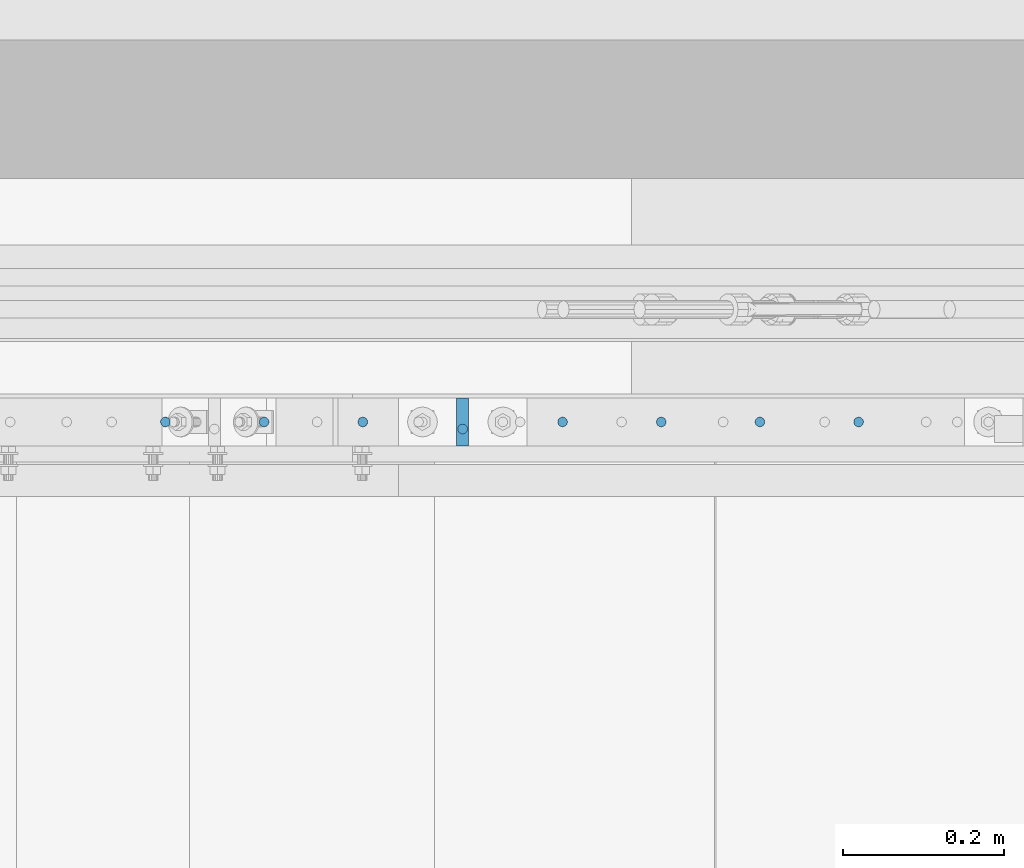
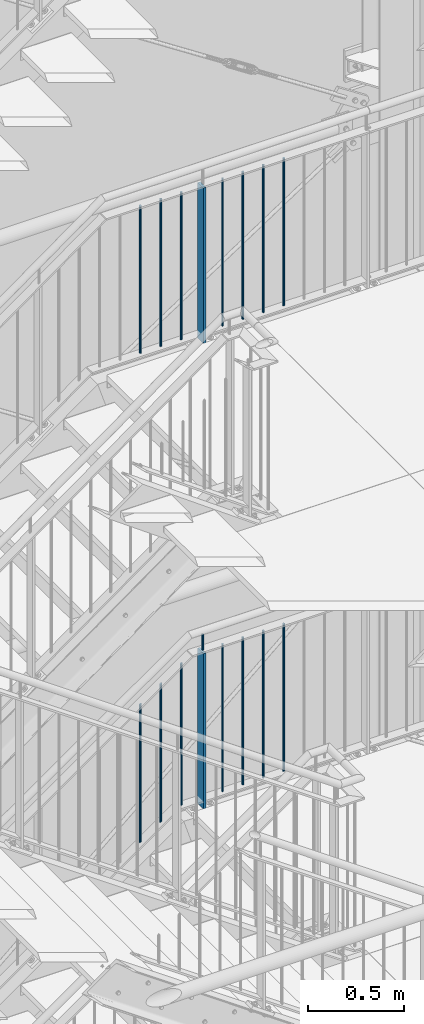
# One storey, part 105 of 825: 17 columns.
"""IFC2X3 building model written with IfcOpenShell, lengths in millimetres."""

from ifc_helpers import new_model, entity, si_unit, converted_unit, frame, origin, origin_with_axes, origin_2d, place, context, project, spatial, rectangle, circle, extrude, clip, halfspace, material, element, save


model = new_model("IFC2X3")

# Units and contexts
model_context = context("Model", 3, precision=1e-09, world=origin_with_axes())
ifc_project = project(units=[si_unit("LENGTHUNIT", "METRE", prefix="MILLI"), si_unit("AREAUNIT", "SQUARE_METRE"), si_unit("VOLUMEUNIT", "CUBIC_METRE"), converted_unit("PLANEANGLEUNIT", "DEGREE", entity("IfcPlaneAngleMeasure", 0.01745329), si_unit("PLANEANGLEUNIT", "RADIAN"), dimensions=[0, 0, 0, 0, 0, 0, 0])], contexts=[model_context])

# Site, building, storey
site_placement = place(None, origin_with_axes())
site = spatial("IfcSite", under=ifc_project, at=site_placement, Name="Cnopf'sche Kinderklinik", CompositionType="ELEMENT")
building_placement = place(site_placement, origin_with_axes())
building = spatial("IfcBuilding", under=site, at=building_placement, Name="Struktur 1", CompositionType="ELEMENT")
storey_placement = place(building_placement, origin_with_axes())
storey = spatial("IfcBuildingStorey", under=building, at=storey_placement, Name="Default Storey", CompositionType="ELEMENT", Elevation=0.0)

# Columns
ifc_material = material(Name="S235JR")
column_1_placement = place(None, frame((7656.713831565, 7356.736971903, 6714.618028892), z_axis=(0.0, 0.0, 1.0), x_axis=(1.0, 0.0, 0.0)))
element("IfcColumn", 1, at=column_1_placement, inside=storey, material=ifc_material, Name="Railing_Post_Landing#3", ObjectType="Railing_Post_Landing#3", context=model_context, shape_type="Clipping", body=[
    clip(clip(extrude(rectangle(XDim=15.0, YDim=60.0, at=origin_2d()), origin(), (0.0, 0.0, -1.0), 1070.646584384), halfspace(frame((-7656.713831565, -7356.736971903, -1019.722292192), z_axis=(0.0, 0.0, 1.0), x_axis=(1.0, 0.0, 0.0)), True)), halfspace(frame((-7656.713831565, -7356.736971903, -30.924292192), z_axis=(0.0, 0.0, -1.0), x_axis=(-1.0, 0.0, 0.0)), True)),
])
column_2_placement = place(None, frame((7286.963783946, 7356.736971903, 6483.423738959), z_axis=(0.0, 0.0, 1.0), x_axis=(1.0, 0.0, 0.0)))
element("IfcColumn", 2, at=column_2_placement, inside=storey, material=ifc_material, Name="Railing_Picket_Stair#18", ObjectType="Railing_Picket_Stair#18", context=model_context, shape_type="Clipping", body=[
    clip(clip(extrude(circle(Radius=6.0, at=origin_2d()), origin(), (0.0, 0.0, -1.0), 897.037988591), halfspace(frame((-7509.862950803, -7356.736971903, -6166.371655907), z_axis=(-0.575128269, 0.0, 0.818063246), x_axis=(0.0, -1.0, 0.0)), True)), halfspace(frame((-7922.150118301, -7356.736971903, -5579.933818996), z_axis=(0.575128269, 0.0, -0.818063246), x_axis=(0.0, 1.0, 0.0)), True)),
])
column_3_placement = place(None, frame((7409.713807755, 7356.736971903, 6569.721478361), z_axis=(0.0, 0.0, 1.0), x_axis=(1.0, 0.0, 0.0)))
element("IfcColumn", 3, at=column_3_placement, inside=storey, material=ifc_material, Name="Railing_Picket_Stair#19", ObjectType="Railing_Picket_Stair#19", context=model_context, shape_type="Clipping", body=[
    clip(clip(extrude(circle(Radius=6.0, at=origin_2d()), origin(), (0.0, 0.0, -1.0), 897.037988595), halfspace(frame((-7632.612974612, -7356.736971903, -6252.66939531), z_axis=(-0.575128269, 0.0, 0.818063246), x_axis=(0.0, -1.0, 0.0)), True)), halfspace(frame((-8044.900142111, -7356.736971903, -5666.231558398), z_axis=(0.575128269, 0.0, -0.818063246), x_axis=(0.0, 1.0, 0.0)), True)),
])
column_4_placement = place(None, frame((7532.463831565, 7356.736971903, 6656.019217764), z_axis=(0.0, 0.0, 1.0), x_axis=(1.0, 0.0, 0.0)))
element("IfcColumn", 4, at=column_4_placement, inside=storey, material=ifc_material, Name="Railing_Picket_Landing#20", ObjectType="Railing_Picket_Landing#20", context=model_context, shape_type="Clipping", body=[
    clip(extrude(circle(Radius=6.0, at=origin_2d()), origin(), (0.0, 0.0, -1.0), 911.124481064), halfspace(frame((-8167.65016592, -7356.736971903, -5752.529297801), z_axis=(0.575128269, 0.0, -0.818063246), x_axis=(0.0, 1.0, 0.0)), True)),
])
column_5_placement = place(None, frame((7780.963831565, 7356.736971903, 6697.180018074), z_axis=(0.0, 0.0, 1.0), x_axis=(1.0, 0.0, 0.0)))
element("IfcColumn", 5, at=column_5_placement, inside=storey, material=ifc_material, Name="Railing_Picket_Landing#21", ObjectType="Railing_Picket_Landing#21", context=model_context, shape_type="Clipping", body=[
    clip(clip(extrude(circle(Radius=6.0, at=origin_2d()), origin(), (0.0, 0.0, -1.0), 965.770562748), halfspace(frame((-7780.963831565, -7356.736971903, -13.486281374), z_axis=(0.0, 0.0, -1.0), x_axis=(-1.0, 0.0, 0.0)), True)), halfspace(frame((-7780.963831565, -7356.736971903, -952.284281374), z_axis=(0.0, 0.0, 1.0), x_axis=(1.0, 0.0, 0.0)), True)),
])
column_6_placement = place(None, frame((7903.713855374, 7356.736971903, 6697.180018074), z_axis=(0.0, 0.0, 1.0), x_axis=(1.0, 0.0, 0.0)))
element("IfcColumn", 6, at=column_6_placement, inside=storey, material=ifc_material, Name="Railing_Picket_Landing#22", ObjectType="Railing_Picket_Landing#22", context=model_context, shape_type="Clipping", body=[
    clip(clip(extrude(circle(Radius=6.0, at=origin_2d()), origin(), (0.0, 0.0, -1.0), 965.770562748), halfspace(frame((-7903.713855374, -7356.736971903, -13.486281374), z_axis=(0.0, 0.0, -1.0), x_axis=(-1.0, 0.0, 0.0)), True)), halfspace(frame((-7903.713855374, -7356.736971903, -952.284281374), z_axis=(0.0, 0.0, 1.0), x_axis=(1.0, 0.0, 0.0)), True)),
])
column_7_placement = place(None, frame((8026.463879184, 7356.736971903, 6697.180018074), z_axis=(0.0, 0.0, 1.0), x_axis=(1.0, 0.0, 0.0)))
element("IfcColumn", 7, at=column_7_placement, inside=storey, material=ifc_material, Name="Railing_Picket_Landing#23", ObjectType="Railing_Picket_Landing#23", context=model_context, shape_type="Clipping", body=[
    clip(clip(extrude(circle(Radius=6.0, at=origin_2d()), origin(), (0.0, 0.0, -1.0), 965.770562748), halfspace(frame((-8026.463879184, -7356.736971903, -13.486281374), z_axis=(0.0, 0.0, -1.0), x_axis=(-1.0, 0.0, 0.0)), True)), halfspace(frame((-8026.463879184, -7356.736971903, -952.284281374), z_axis=(0.0, 0.0, 1.0), x_axis=(1.0, 0.0, 0.0)), True)),
])
column_8_placement = place(None, frame((8149.213902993, 7356.736971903, 6697.180018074), z_axis=(0.0, 0.0, 1.0), x_axis=(1.0, 0.0, 0.0)))
element("IfcColumn", 8, at=column_8_placement, inside=storey, material=ifc_material, Name="Railing_Picket_Landing#24", ObjectType="Railing_Picket_Landing#24", context=model_context, shape_type="Clipping", body=[
    clip(clip(extrude(circle(Radius=6.0, at=origin_2d()), origin(), (0.0, 0.0, -1.0), 965.770562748), halfspace(frame((-8149.213902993, -7356.736971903, -13.486281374), z_axis=(0.0, 0.0, -1.0), x_axis=(-1.0, 0.0, 0.0)), True)), halfspace(frame((-8149.213902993, -7356.736971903, -952.284281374), z_axis=(0.0, 0.0, 1.0), x_axis=(1.0, 0.0, 0.0)), True)),
])
column_9_placement = place(None, frame((7656.713831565, 7347.936971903, 6802.180018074), z_axis=(0.0, 0.0, 1.0), x_axis=(0.0, -1.0, 0.0)))
element("IfcColumn", 9, at=column_9_placement, inside=storey, material=ifc_material, Name="Bar#3", ObjectType="Bar#3", context=model_context, shape_type="Clipping", body=[
    clip(clip(extrude(circle(Radius=6.0, at=origin_2d()), origin(), (0.0, 0.0, -1.0), 116.970562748), halfspace(frame((7347.936971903, -7656.713831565, -8.486281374), z_axis=(0.0, 0.0, -1.0), x_axis=(0.0, -1.0, 0.0)), True)), halfspace(frame((7347.936971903, -7656.713831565, -108.484281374), z_axis=(0.0, 0.0, 1.0), x_axis=(0.0, 1.0, 0.0)), True)),
])
column_10_placement = place(None, frame((7656.713831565, 7356.736971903, 9675.723292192), z_axis=(0.0, 0.0, 1.0), x_axis=(1.0, 0.0, 0.0)))
element("IfcColumn", 10, at=column_10_placement, inside=storey, material=ifc_material, Name="Railing_Post_Landing#3", ObjectType="Railing_Post_Landing#3", context=model_context, shape_type="Clipping", body=[
    clip(clip(extrude(rectangle(XDim=15.0, YDim=60.0, at=origin_2d()), origin(), (0.0, 0.0, -1.0), 1070.646584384), halfspace(frame((-7656.713831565, -7356.736971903, -1019.722292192), z_axis=(0.0, 0.0, 1.0), x_axis=(1.0, 0.0, 0.0)), True)), halfspace(frame((-7656.713831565, -7356.736971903, -30.924292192), z_axis=(0.0, 0.0, -1.0), x_axis=(-1.0, 0.0, 0.0)), True)),
])
column_11_placement = place(None, frame((7286.963783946, 7356.736971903, 9658.285281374), z_axis=(0.0, 0.0, 1.0), x_axis=(1.0, 0.0, 0.0)))
element("IfcColumn", 11, at=column_11_placement, inside=storey, material=ifc_material, Name="Railing_Picket_Landing#18", ObjectType="Railing_Picket_Landing#18", context=model_context, shape_type="Clipping", body=[
    clip(clip(extrude(circle(Radius=6.0, at=origin_2d()), origin(), (0.0, 0.0, -1.0), 965.770562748), halfspace(frame((-7286.963783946, -7356.736971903, -13.486281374), z_axis=(0.0, 0.0, -1.0), x_axis=(-1.0, 0.0, 0.0)), True)), halfspace(frame((-7286.963783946, -7356.736971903, -952.284281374), z_axis=(0.0, 0.0, 1.0), x_axis=(1.0, 0.0, 0.0)), True)),
])
column_12_placement = place(None, frame((7409.713807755, 7356.736971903, 9658.285281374), z_axis=(0.0, 0.0, 1.0), x_axis=(1.0, 0.0, 0.0)))
element("IfcColumn", 12, at=column_12_placement, inside=storey, material=ifc_material, Name="Railing_Picket_Landing#19", ObjectType="Railing_Picket_Landing#19", context=model_context, shape_type="Clipping", body=[
    clip(clip(extrude(circle(Radius=6.0, at=origin_2d()), origin(), (0.0, 0.0, -1.0), 965.770562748), halfspace(frame((-7409.713807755, -7356.736971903, -13.486281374), z_axis=(0.0, 0.0, -1.0), x_axis=(-1.0, 0.0, 0.0)), True)), halfspace(frame((-7409.713807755, -7356.736971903, -952.284281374), z_axis=(0.0, 0.0, 1.0), x_axis=(1.0, 0.0, 0.0)), True)),
])
column_13_placement = place(None, frame((7532.463831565, 7356.736971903, 9658.285281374), z_axis=(0.0, 0.0, 1.0), x_axis=(1.0, 0.0, 0.0)))
element("IfcColumn", 13, at=column_13_placement, inside=storey, material=ifc_material, Name="Railing_Picket_Landing#20", ObjectType="Railing_Picket_Landing#20", context=model_context, shape_type="Clipping", body=[
    clip(clip(extrude(circle(Radius=6.0, at=origin_2d()), origin(), (0.0, 0.0, -1.0), 965.770562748), halfspace(frame((-7532.463831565, -7356.736971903, -13.486281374), z_axis=(0.0, 0.0, -1.0), x_axis=(-1.0, 0.0, 0.0)), True)), halfspace(frame((-7532.463831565, -7356.736971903, -952.284281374), z_axis=(0.0, 0.0, 1.0), x_axis=(1.0, 0.0, 0.0)), True)),
])
column_14_placement = place(None, frame((7780.963831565, 7356.736971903, 9658.285281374), z_axis=(0.0, 0.0, 1.0), x_axis=(1.0, 0.0, 0.0)))
element("IfcColumn", 14, at=column_14_placement, inside=storey, material=ifc_material, Name="Railing_Picket_Landing#21", ObjectType="Railing_Picket_Landing#21", context=model_context, shape_type="Clipping", body=[
    clip(clip(extrude(circle(Radius=6.0, at=origin_2d()), origin(), (0.0, 0.0, -1.0), 965.770562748), halfspace(frame((-7780.963831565, -7356.736971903, -13.486281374), z_axis=(0.0, 0.0, -1.0), x_axis=(-1.0, 0.0, 0.0)), True)), halfspace(frame((-7780.963831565, -7356.736971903, -952.284281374), z_axis=(0.0, 0.0, 1.0), x_axis=(1.0, 0.0, 0.0)), True)),
])
column_15_placement = place(None, frame((7903.713855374, 7356.736971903, 9658.285281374), z_axis=(0.0, 0.0, 1.0), x_axis=(1.0, 0.0, 0.0)))
element("IfcColumn", 15, at=column_15_placement, inside=storey, material=ifc_material, Name="Railing_Picket_Landing#22", ObjectType="Railing_Picket_Landing#22", context=model_context, shape_type="Clipping", body=[
    clip(clip(extrude(circle(Radius=6.0, at=origin_2d()), origin(), (0.0, 0.0, -1.0), 965.770562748), halfspace(frame((-7903.713855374, -7356.736971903, -13.486281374), z_axis=(0.0, 0.0, -1.0), x_axis=(-1.0, 0.0, 0.0)), True)), halfspace(frame((-7903.713855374, -7356.736971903, -952.284281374), z_axis=(0.0, 0.0, 1.0), x_axis=(1.0, 0.0, 0.0)), True)),
])
column_16_placement = place(None, frame((8026.463879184, 7356.736971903, 9658.285281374), z_axis=(0.0, 0.0, 1.0), x_axis=(1.0, 0.0, 0.0)))
element("IfcColumn", 16, at=column_16_placement, inside=storey, material=ifc_material, Name="Railing_Picket_Landing#23", ObjectType="Railing_Picket_Landing#23", context=model_context, shape_type="Clipping", body=[
    clip(clip(extrude(circle(Radius=6.0, at=origin_2d()), origin(), (0.0, 0.0, -1.0), 965.770562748), halfspace(frame((-8026.463879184, -7356.736971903, -13.486281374), z_axis=(0.0, 0.0, -1.0), x_axis=(-1.0, 0.0, 0.0)), True)), halfspace(frame((-8026.463879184, -7356.736971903, -952.284281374), z_axis=(0.0, 0.0, 1.0), x_axis=(1.0, 0.0, 0.0)), True)),
])
column_17_placement = place(None, frame((8149.213902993, 7356.736971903, 9658.285281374), z_axis=(0.0, 0.0, 1.0), x_axis=(1.0, 0.0, 0.0)))
element("IfcColumn", 17, at=column_17_placement, inside=storey, material=ifc_material, Name="Railing_Picket_Landing#24", ObjectType="Railing_Picket_Landing#24", context=model_context, shape_type="Clipping", body=[
    clip(clip(extrude(circle(Radius=6.0, at=origin_2d()), origin(), (0.0, 0.0, -1.0), 965.770562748), halfspace(frame((-8149.213902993, -7356.736971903, -13.486281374), z_axis=(0.0, 0.0, -1.0), x_axis=(-1.0, 0.0, 0.0)), True)), halfspace(frame((-8149.213902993, -7356.736971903, -952.284281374), z_axis=(0.0, 0.0, 1.0), x_axis=(1.0, 0.0, 0.0)), True)),
])

save(model, "model.ifc")
